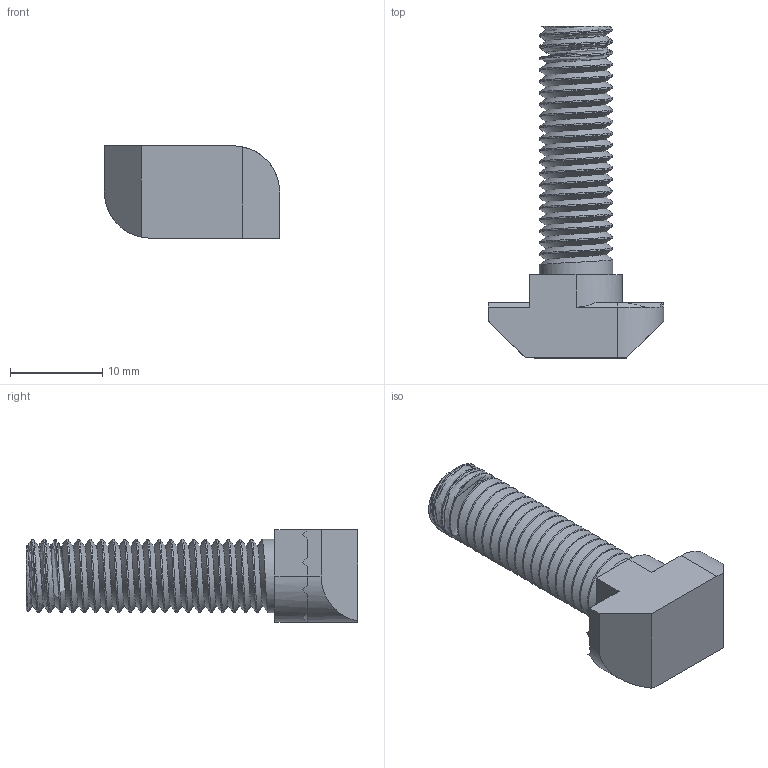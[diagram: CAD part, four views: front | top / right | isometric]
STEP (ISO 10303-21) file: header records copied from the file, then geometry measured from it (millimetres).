
FILE_DESCRIPTION(/* description */ ('Inserto a martello cava 10 filleto maschio M8x30'),/* implementation_level */ '2;1');
FILE_NAME(/* name */ 'C:\omnitec\Desktop\Inserti\N41-10-30.stp',/* time_stamp */ '2021-02-19T08:08:45+01:00',/* author */ ('omnitec'),/* organization */ ('Microsoft'),/* preprocessor_version */ 'ST-DEVELOPER v18.1',/* originating_system */ 'Autodesk Inventor 2021',/* authorisation */ '');
FILE_SCHEMA (('AUTOMOTIVE_DESIGN { 1 0 10303 214 3 1 1 }'));
Length unit declared in the file: millimetre
Products named in the file (1): N41-10-30
Bounding box: 19 x 36 x 10 mm (x, y, z)
Volume: 2325.9 mm3; surface area: 1722.3 mm2
Topology: 1 solids, 1 shells, 70 faces, 193 edges, 127 vertices
Faces by surface type: plane 40, cylinder 25, cone 3, bspline 2
Full cylindrical faces by diameter (mm): 8 x20
Entity records: 4941 total; most frequent: CARTESIAN_POINT 3192, ORIENTED_EDGE 386, DIRECTION 314, EDGE_CURVE 193, VERTEX_POINT 127, LINE 110, VECTOR 110, AXIS2_PLACEMENT_3D 102
